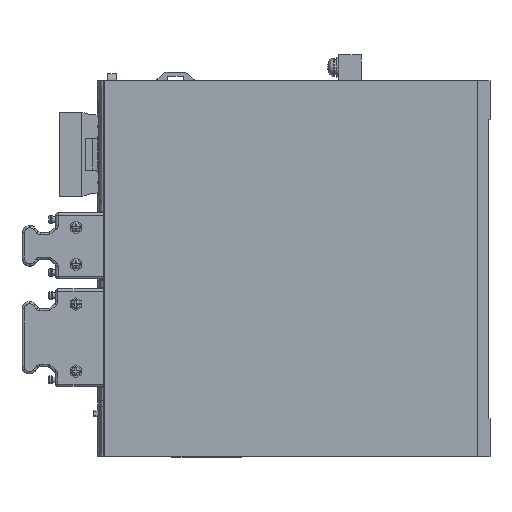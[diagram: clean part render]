
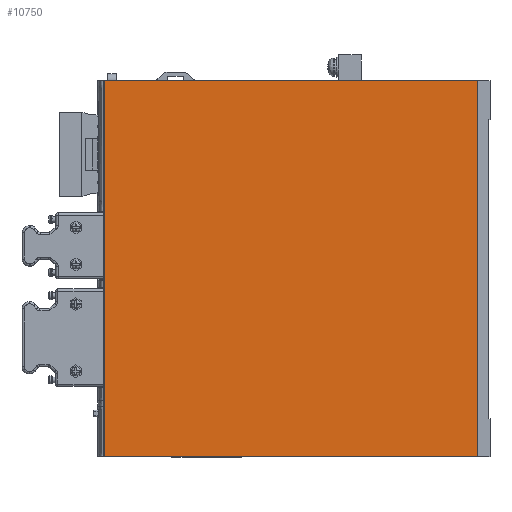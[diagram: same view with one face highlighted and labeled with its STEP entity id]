
A CAD part, left-side view. The second image highlights one B-rep face of the part: STEP entity #10750.
In plain terms, the highlighted planar face has unit normal (-1, 0, 0).
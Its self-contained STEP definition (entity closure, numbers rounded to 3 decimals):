
#879=DIRECTION('',(0.,0.,1.));
#880=VECTOR('',#879,166.5);
#881=CARTESIAN_POINT('',(-23.,-84.,5.));
#882=LINE('',#881,#880);
#2035=DIRECTION('',(0.,-1.,0.));
#2036=VECTOR('',#2035,168.);
#2037=CARTESIAN_POINT('',(-23.,84.,5.));
#2038=LINE('',#2037,#2036);
#2039=DIRECTION('',(0.,0.,1.));
#2040=VECTOR('',#2039,166.5);
#2041=CARTESIAN_POINT('',(-23.,84.,5.));
#2042=LINE('',#2041,#2040);
#2043=DIRECTION('',(0.,-1.,0.));
#2044=VECTOR('',#2043,168.);
#2045=CARTESIAN_POINT('',(-23.,84.,171.5));
#2046=LINE('',#2045,#2044);
#7032=CARTESIAN_POINT('',(-23.,84.,171.5));
#7033=CARTESIAN_POINT('',(-23.,-84.,171.5));
#7034=VERTEX_POINT('',#7032);
#7035=VERTEX_POINT('',#7033);
#8400=CARTESIAN_POINT('',(-23.,84.,5.));
#8401=CARTESIAN_POINT('',(-23.,-84.,5.));
#8402=VERTEX_POINT('',#8400);
#8403=VERTEX_POINT('',#8401);
#10738=CARTESIAN_POINT('',(-23.,84.,0.));
#10739=DIRECTION('',(-1.,0.,0.));
#10740=DIRECTION('',(0.,-1.,0.));
#10741=AXIS2_PLACEMENT_3D('',#10738,#10739,#10740);
#10742=PLANE('',#10741);
#10743=ORIENTED_EDGE('',*,*,#10724,.F.);
#10744=ORIENTED_EDGE('',*,*,#9911,.T.);
#10746=ORIENTED_EDGE('',*,*,#10745,.T.);
#10747=ORIENTED_EDGE('',*,*,#9182,.F.);
#10748=EDGE_LOOP('',(#10743,#10744,#10746,#10747));
#10749=FACE_OUTER_BOUND('',#10748,.F.);
#9182=EDGE_CURVE('',#8403,#7035,#882,.T.);
#9911=EDGE_CURVE('',#8402,#7034,#2042,.T.);
#10724=EDGE_CURVE('',#8402,#8403,#2038,.T.);
#10745=EDGE_CURVE('',#7034,#7035,#2046,.T.);
#10750=ADVANCED_FACE('',(#10749),#10742,.T.);
